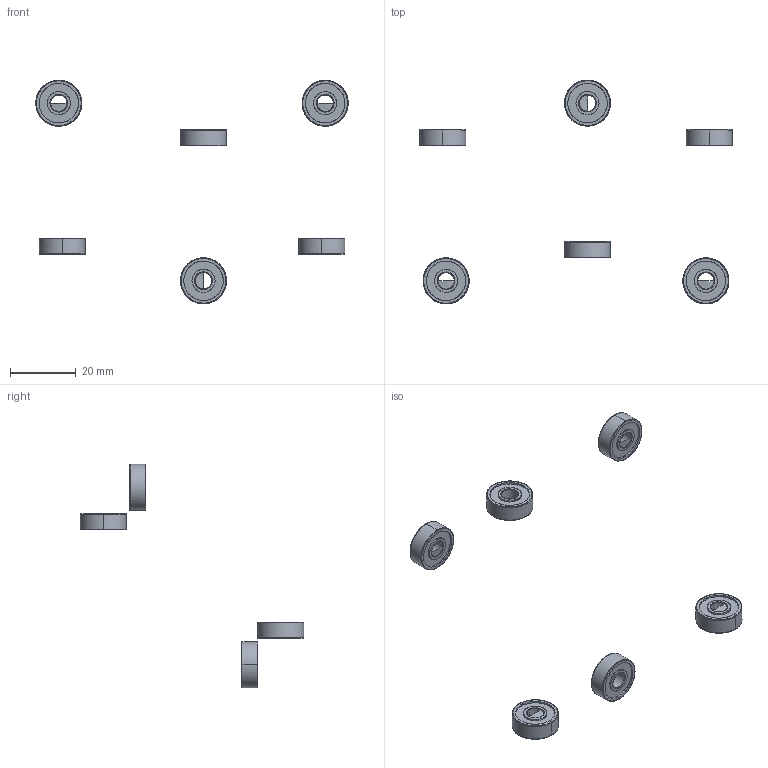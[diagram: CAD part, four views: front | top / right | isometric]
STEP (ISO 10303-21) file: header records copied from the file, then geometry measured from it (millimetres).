
FILE_DESCRIPTION(/* description */ (''),/* implementation_level */ '2;1');
FILE_NAME(/* name */ 'X-CART~1',/* time_stamp */ '2014-02-14T19:44:09+01:00',/* author */ (''),/* organization */ (''),/* preprocessor_version */ 'ST-DEVELOPER v14',/* originating_system */ '',/* authorisation */ '');
FILE_SCHEMA (('AUTOMOTIVE_DESIGN'));
Length unit declared in the file: millimetre
Products named in the file (2): Document; ball bearing 5x14x5mm
Assembly tree (6 placements, depth 2):
  Document
    ball bearing 5x14x5mm  x6
Bounding box: 95 x 68 x 68 mm (x, y, z)
Surface area: 3703 mm2 (no closed solid volume)
Topology: 0 solids, 156 shells, 156 faces, 552 edges, 546 vertices
Faces by surface type: bspline 120, plane 36
Entity records: 2768 total; most frequent: CARTESIAN_POINT 1643, B_SPLINE_CURVE_WITH_KNOTS 103, ORIENTED_EDGE 91, PCURVE 91, DEFINITIONAL_REPRESENTATION 91, SURFACE_CURVE 91, EDGE_CURVE 91, VERTEX_POINT 91
